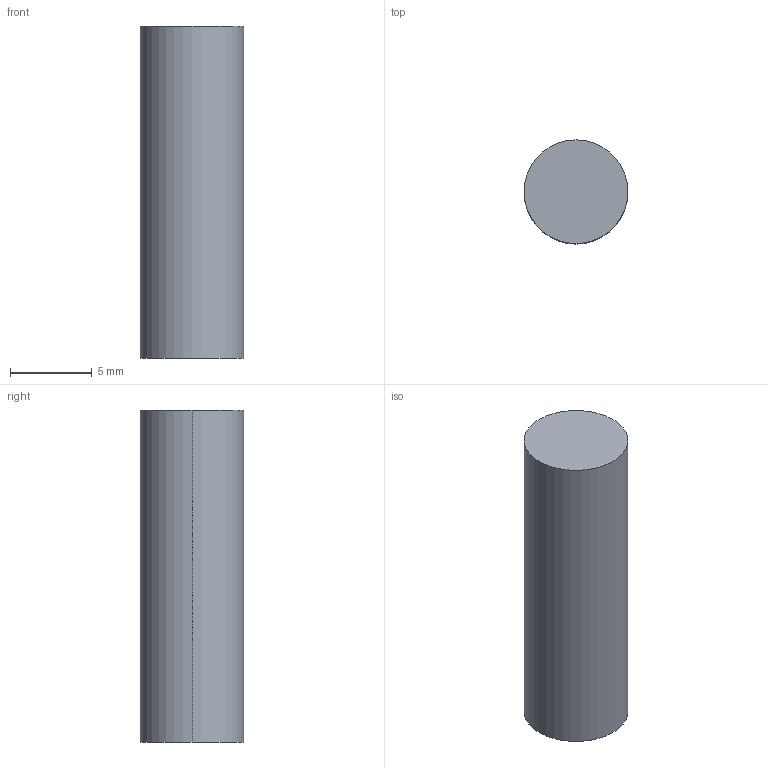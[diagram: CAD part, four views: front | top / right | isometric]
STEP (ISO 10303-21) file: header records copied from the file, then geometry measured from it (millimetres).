
FILE_DESCRIPTION (( 'STEP AP214' ), '1' );
FILE_NAME ('250_rod_800.STEP', '2015-04-17T00:02:07', ( '' ), ( '' ), 'SwSTEP 2.0', 'SolidWorks 2012', '' );
FILE_SCHEMA (( 'AUTOMOTIVE_DESIGN' ));
Length unit declared in the file: inch
Products named in the file (1): 250_rod_800
Bounding box: 6.35 x 6.35 x 20.32 mm (x, y, z)
Volume: 643.5 mm3; surface area: 468.7 mm2
Topology: 1 solids, 1 shells, 4 faces, 6 edges, 4 vertices
Faces by surface type: cylinder 2, plane 2
Entity records: 134 total; most frequent: DIRECTION 20, CARTESIAN_POINT 15, ORIENTED_EDGE 12, AXIS2_PLACEMENT_3D 9, EDGE_CURVE 6, EDGE_LOOP 4, VERTEX_POINT 4, CIRCLE 4
